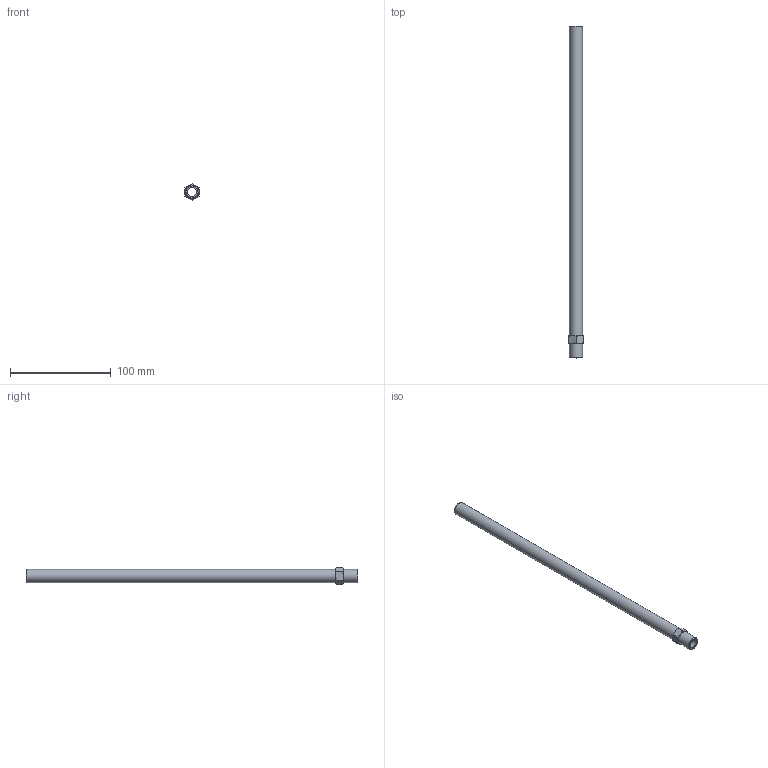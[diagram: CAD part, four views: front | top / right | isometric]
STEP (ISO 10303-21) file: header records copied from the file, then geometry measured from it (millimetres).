
FILE_DESCRIPTION(/* description */ (''),/* implementation_level */ '2;1');
FILE_NAME(/* name */ 'C:/Users/drich/Desktop/APN14-13 v1.step',/* time_stamp */ '2019-12-27T17:45:48-06:00',/* author */ (''),/* organization */ (''),/* preprocessor_version */ 'ST-DEVELOPER v18',/* originating_system */ 'Autodesk Translation Framework v8.12.0.6',/* authorisation */ '');
FILE_SCHEMA (('AUTOMOTIVE_DESIGN { 1 0 10303 214 3 1 1 }','TECHNICAL_DATA_PACKAGING'));
Length unit declared in the file: inch
Products named in the file (1): APN14-13
Bounding box: 14.27 x 330.2 x 16.48 mm (x, y, z)
Volume: 24656.9 mm3; surface area: 22796 mm2
Topology: 1 solids, 1 shells, 17 faces, 39 edges, 26 vertices
Faces by surface type: plane 10, cone 4, cylinder 3
Full cylindrical faces by diameter (mm): 8.712 x1, 13.032 x2
Entity records: 521 total; most frequent: CARTESIAN_POINT 107, ORIENTED_EDGE 78, DIRECTION 77, EDGE_CURVE 39, AXIS2_PLACEMENT_3D 32, VERTEX_POINT 26, EDGE_LOOP 21, FACE_OUTER_BOUND 17
